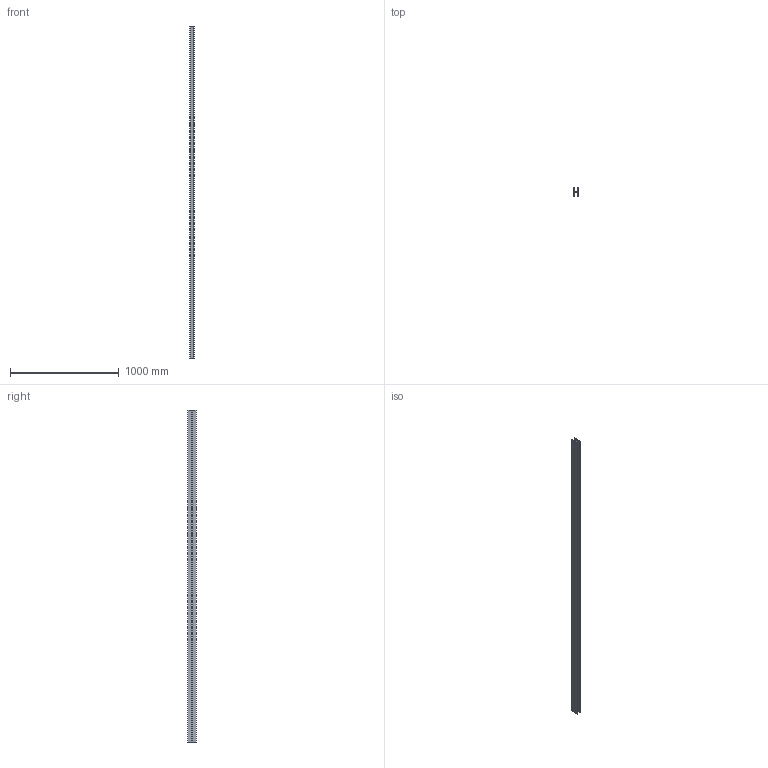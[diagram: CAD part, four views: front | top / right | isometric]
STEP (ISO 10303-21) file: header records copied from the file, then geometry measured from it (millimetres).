
FILE_DESCRIPTION(('TurboCAD Mac Pro'),'Build 980');
FILE_NAME('F20V-2100.stp',' ',(''),(''),'ACIS Interop','IMSI','TurboCAD Mac Pro BY IMSI, INCORPORATED');
FILE_SCHEMA(('automotive_design'));
Length unit declared in the file: inch
Products named in the file (1): 1
Bounding box: 41.29 x 82.54 x 3048 mm (x, y, z)
Volume: 2744765.8 mm3; surface area: 1390033.6 mm2
Topology: 1 solids, 1 shells, 60 faces, 174 edges, 116 vertices
Faces by surface type: bspline 36, plane 24
Entity records: 2730 total; most frequent: CARTESIAN_POINT 851, ORIENTED_EDGE 348, DIRECTION 184, EDGE_CURVE 174, VERTEX_POINT 116, LINE 102, VECTOR 102, STYLED_ITEM 61
